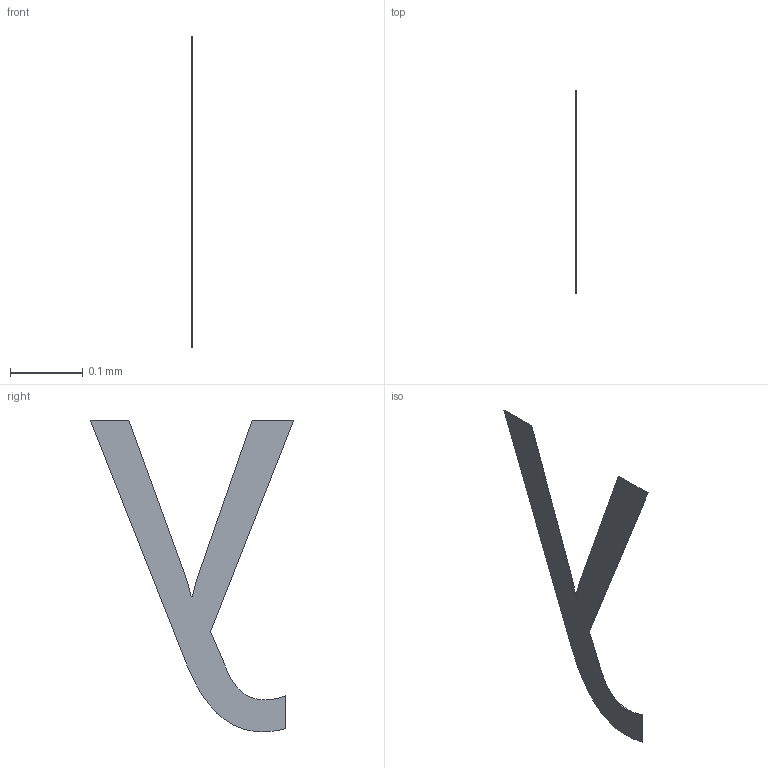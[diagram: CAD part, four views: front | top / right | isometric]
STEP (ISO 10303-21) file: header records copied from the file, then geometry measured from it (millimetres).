
FILE_DESCRIPTION(/* description */ ('STEP AP242 Edition 2','CAx-IF Rec.Pracs.---Representation and Presentation of Product Manufacturing Information (PMI)---4.0---2014-10-13','CAx-IF Rec.Pracs.---3D Tessellated Geometry---0.4---2014-09-14','2;1','CAx-IF Rec.Pracs.---User Defined Attributes---1.5---2016-08-15'),/* implementation_level */ '2;1');
FILE_NAME(/* name */ 'Assembly 1 - CONN-TH_HFBR-1521Z~CONN-TH_HFBR-1521Z~nxQB (3)',/* time_stamp */ '2026-04-02T09:55:12Z',/* author */ (''),/* organization */ (''),/* preprocessor_version */ 'ST-DEVELOPER v20',/* originating_system */ 'ONSHAPE BY PTC INC, 1.212',/* authorisation */ ' ');
FILE_SCHEMA (('AP242_MANAGED_MODEL_BASED_3D_ENGINEERING_MIM_LF { 1 0 10303 442 3 1 4 }'));
Length unit declared in the file: metre
Products named in the file (1): CONN-TH_HFBR-1521Z~CONN-TH_HFBR-1521Z~nxQB
Bounding box: 0 x 0.28 x 0.43 mm (x, y, z)
Volume: 0 mm3; surface area: 0.1 mm2
Topology: 1 solids, 1 shells, 17 faces, 45 edges, 30 vertices
Faces by surface type: plane 12, bspline 5
Entity records: 691 total; most frequent: CARTESIAN_POINT 158, ORIENTED_EDGE 90, DIRECTION 61, EDGE_CURVE 45, LINE 35, VECTOR 35, VERTEX_POINT 30, PRESENTATION_STYLE_ASSIGNMENT 18
